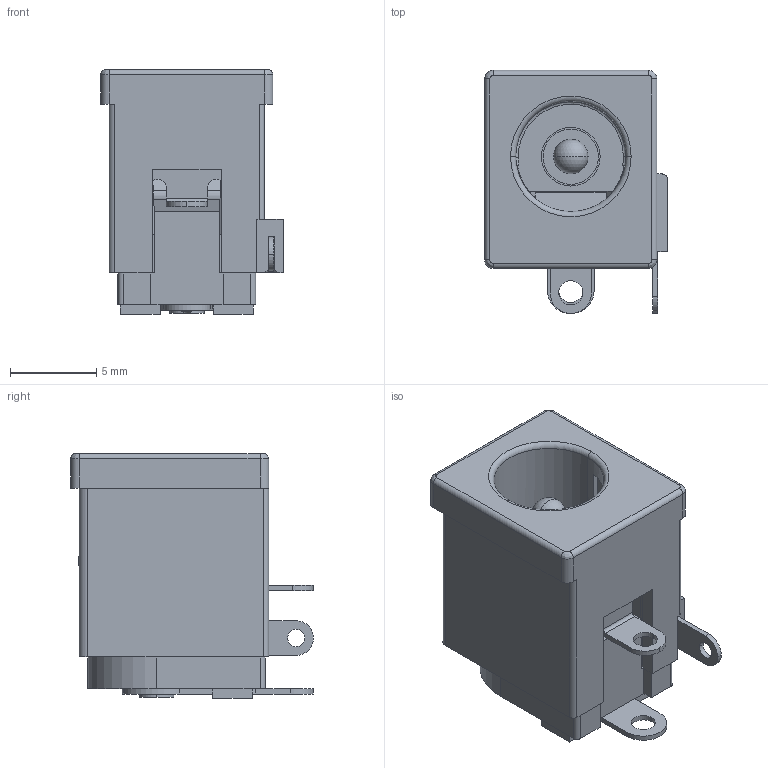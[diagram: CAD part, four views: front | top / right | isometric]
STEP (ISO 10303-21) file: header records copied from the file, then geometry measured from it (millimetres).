
FILE_DESCRIPTION (( 'STEP AP203' ), '1' );
FILE_NAME ('DC-S006A-D020-5A.stp', '2023-07-14T09:38:12', ( '' ), ( '' ), 'SwSTEP 2.0', 'SolidWorks 2023', '' );
FILE_SCHEMA (( 'CONFIG_CONTROL_DESIGN' ));
Length unit declared in the file: millimetre
Products named in the file (1): DC-S006A-D020-5A
Bounding box: 10.6 x 14.1 x 14.2 mm (x, y, z)
Volume: 879.5 mm3; surface area: 1557.6 mm2
Topology: 1 solids, 4 shells, 652 faces, 1756 edges, 1127 vertices
Faces by surface type: plane 400, cylinder 117, bspline 94, cone 20, torus 11, sphere 10
Entity records: 24375 total; most frequent: CARTESIAN_POINT 8322, ORIENTED_EDGE 3500, DIRECTION 3014, EDGE_CURVE 1750, VECTOR 1272, LINE 1272, VERTEX_POINT 1125, AXIS2_PLACEMENT_3D 871
